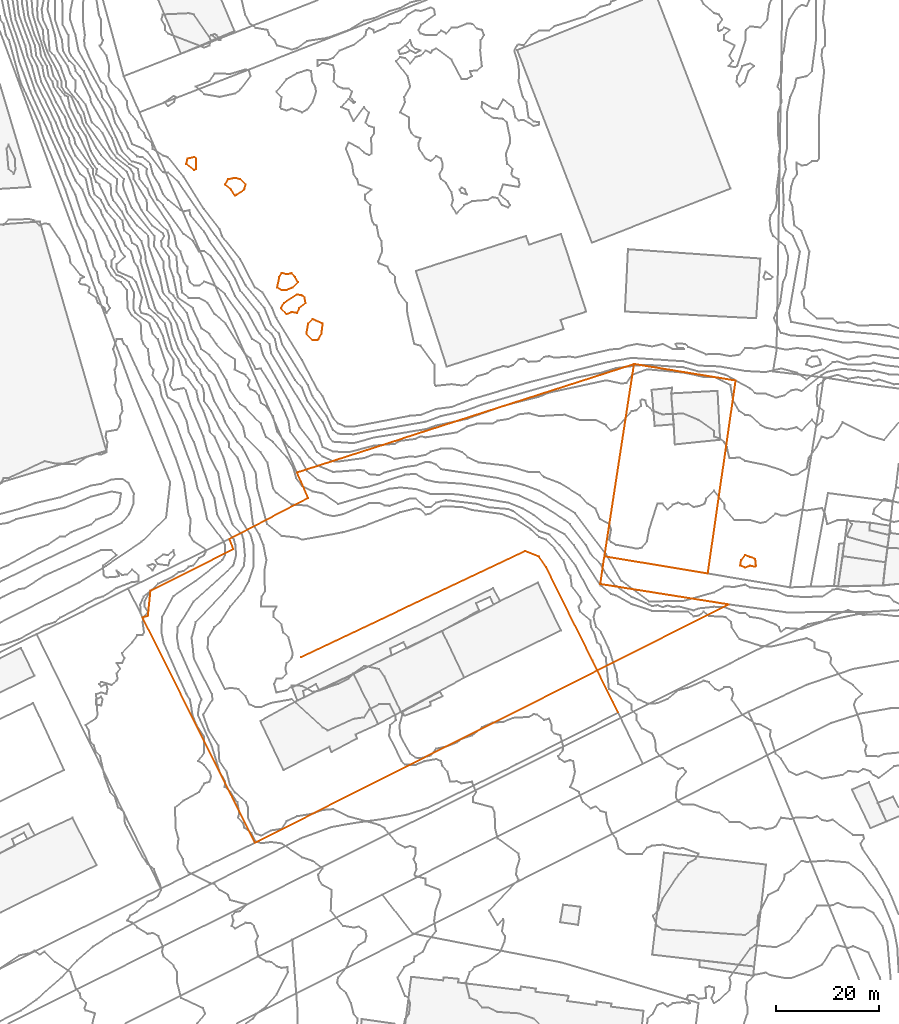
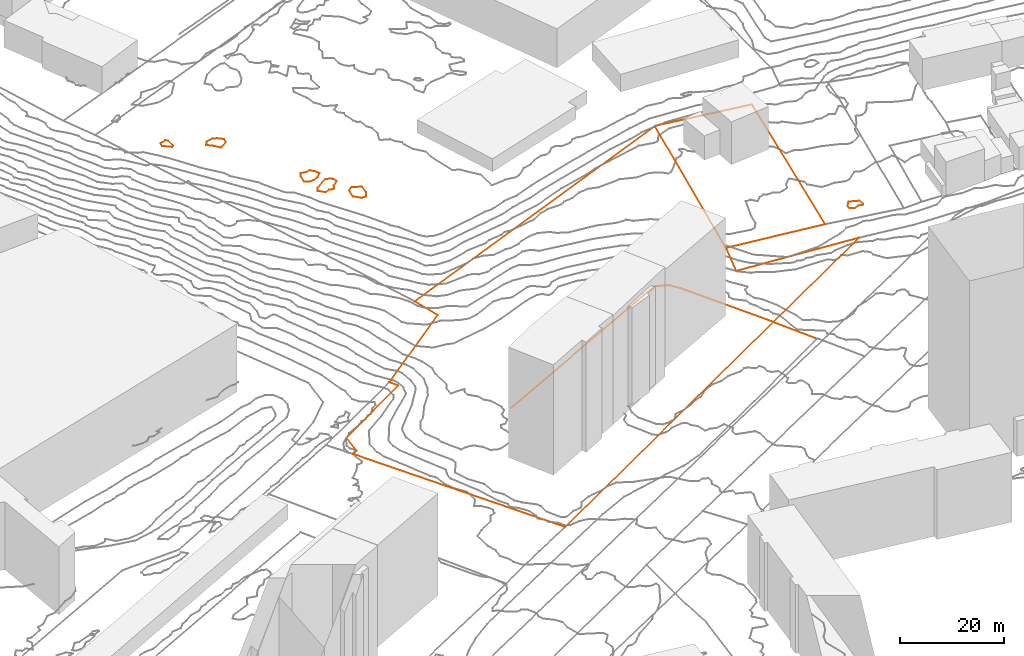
# Not in any storey, part 326 of 419: 9 proxies.
"""IFC2X3 model written with IfcOpenShell, lengths in metres."""

from ifc_helpers import new_model, entity, si_unit, frame, origin_with_axes, place, context, subcontext, project, element, save


model = new_model("IFC2X3")

# Units and contexts
model_context = context("Model", 3, precision=1e-05, world=origin_with_axes())
body_context = subcontext(model_context, "Body", "Model", "MODEL_VIEW")
ifc_project = project(units=[si_unit("AREAUNIT", "SQUARE_METRE"), si_unit("LENGTHUNIT", "METRE")], contexts=[model_context])

# Proxies
proxy_1_placement = place(None, frame((353.8920204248, 862.0976909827, 35.9), z_axis=(0.0, 0.0, 1.0), x_axis=(1.0, 0.0, 0.0)))
element("IfcBuildingElementProxy", 1, at=proxy_1_placement, Name="Route 320", ObjectType="NOTDEFINED", context=body_context, shape_type="GeometricCurveSet", body=[
    entity("IfcGeometricCurveSet", [entity("IfcPolyline", [entity("IfcCartesianPoint", [61.6, -10.7999999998, 1.1]), entity("IfcCartesianPoint", [56.6, -0.7000000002, 1.1]), entity("IfcCartesianPoint", [47.6, 17.5, 0.7]), entity("IfcCartesianPoint", [46.2, 19.5, 0.7]), entity("IfcCartesianPoint", [43.5, 20.5999999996, 0.7]), entity("IfcCartesianPoint", [0.0, 0.0, 0.0])])]),
])
proxy_2_placement = place(None, frame((323.1020204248, 869.8176909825, 31.0912315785), z_axis=(0.0, 0.0, 1.0), x_axis=(1.0, 0.0, 0.0)))
element("IfcBuildingElementProxy", 2, at=proxy_2_placement, Name="Cadastre 270", ObjectType="NOTDEFINED", context=body_context, shape_type="GeometricCurveSet", body=[
    entity("IfcGeometricCurveSet", [entity("IfcPolyline", [entity("IfcCartesianPoint", [16.9, 15.25, 1.6783683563]), entity("IfcCartesianPoint", [32.17, 23.1800000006, 7.2842086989]), entity("IfcCartesianPoint", [30.0, 28.1400000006, 8.24785621]), entity("IfcCartesianPoint", [95.45, 49.1900000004, 13.7446481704]), entity("IfcCartesianPoint", [89.6900000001, 11.8500000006, 9.788448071]), entity("IfcCartesianPoint", [88.9, 6.4699999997, 7.9318200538]), entity("IfcCartesianPoint", [113.8200000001, 2.5099999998, 9.388590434]), entity("IfcCartesianPoint", [21.84, -43.7599999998, 1.7514388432]), entity("IfcCartesianPoint", [0.0, 0.0, 0.0]), entity("IfcCartesianPoint", [1.04, 0.3100000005, 0.2382584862]), entity("IfcCartesianPoint", [1.54, 5.1699999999, 0.1018391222]), entity("IfcCartesianPoint", [17.63, 13.2199999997, 1.8561767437]), entity("IfcCartesianPoint", [16.9, 15.25, 1.6783683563])])]),
])
proxy_3_placement = place(None, frame((412.7920204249, 881.667690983, 40.8796796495), z_axis=(0.0, 0.0, 1.0), x_axis=(1.0, 0.0, 0.0)))
element("IfcBuildingElementProxy", 3, at=proxy_3_placement, Name="Cadastre 272", ObjectType="NOTDEFINED", context=body_context, shape_type="GeometricCurveSet", body=[
    entity("IfcGeometricCurveSet", [entity("IfcPolyline", [entity("IfcCartesianPoint", [20.08, -3.3400000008, 0.5441607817]), entity("IfcCartesianPoint", [0.0, 0.0, 0.0]), entity("IfcCartesianPoint", [5.7599999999, 37.3399999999, 3.9562000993]), entity("IfcCartesianPoint", [25.49, 34.1399999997, 4.0552858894]), entity("IfcCartesianPoint", [20.08, -3.3400000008, 0.5441607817])])]),
])
proxy_4_placement = place(None, frame((331.592014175, 957.8976909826, 47.0), z_axis=(0.0, 0.0, 1.0), x_axis=(1.0, 0.0, 0.0)))
element("IfcBuildingElementProxy", 4, at=proxy_4_placement, Name="Contour 47.0 m", ObjectType="NOTDEFINED", context=body_context, shape_type="GeometricCurveSet", body=[
    entity("IfcGeometricCurveSet", [entity("IfcPolyline", [entity("IfcCartesianPoint", [1.900011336, -1.0, 0.0]), entity("IfcCartesianPoint", [1.5000062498, -1.2400054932, 0.0]), entity("IfcCartesianPoint", [0.0, 0.0, 0.0]), entity("IfcCartesianPoint", [0.2142841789, 1.0, 0.0]), entity("IfcCartesianPoint", [1.5000062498, 1.333340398, 0.0]), entity("IfcCartesianPoint", [1.9615514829, 1.0, 0.0]), entity("IfcCartesianPoint", [1.900011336, -1.0, 0.0])])]),
])
proxy_5_placement = place(None, frame((339.0920167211, 953.8976909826, 47.0), z_axis=(0.0, 0.0, 1.0), x_axis=(1.0, 0.0, 0.0)))
element("IfcBuildingElementProxy", 5, at=proxy_5_placement, Name="Contour 47.0 m", ObjectType="NOTDEFINED", context=body_context, shape_type="GeometricCurveSet", body=[
    entity("IfcGeometricCurveSet", [entity("IfcPolyline", [entity("IfcCartesianPoint", [2.3077005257, -2.0, 0.0]), entity("IfcCartesianPoint", [2.0000037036, -2.2105284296, 0.0]), entity("IfcCartesianPoint", [1.2105321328, -1.0, 0.0]), entity("IfcCartesianPoint", [0.0, 0.0, 0.0]), entity("IfcCartesianPoint", [0.6363610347, 1.0, 0.0]), entity("IfcCartesianPoint", [2.0000037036, 1.2799987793, 0.0]), entity("IfcCartesianPoint", [2.9333472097, 1.0, 0.0]), entity("IfcCartesianPoint", [4.0000108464, 0.0, 0.0]), entity("IfcCartesianPoint", [3.7647069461, -1.0, 0.0]), entity("IfcCartesianPoint", [2.3077005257, -2.0, 0.0])])]),
])
proxy_6_placement = place(None, frame((349.24201661, 933.8976909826, 47.0), z_axis=(0.0, 0.0, 1.0), x_axis=(1.0, 0.0, 0.0)))
element("IfcBuildingElementProxy", 6, at=proxy_6_placement, Name="Contour 47.0 m", ObjectType="NOTDEFINED", context=body_context, shape_type="GeometricCurveSet", body=[
    entity("IfcGeometricCurveSet", [entity("IfcPolyline", [entity("IfcCartesianPoint", [2.9833388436, 0.0, 0.0]), entity("IfcCartesianPoint", [1.8500038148, -0.4857111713, 0.0]), entity("IfcCartesianPoint", [0.8500038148, -0.5483855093, 0.0]), entity("IfcCartesianPoint", [0.0, 0.0, 0.0]), entity("IfcCartesianPoint", [0.4152186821, 2.0, 0.0]), entity("IfcCartesianPoint", [0.8500038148, 2.8000030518, 0.0]), entity("IfcCartesianPoint", [1.8500038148, 2.5641065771, 0.0]), entity("IfcCartesianPoint", [2.8500038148, 2.7368442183, 0.0]), entity("IfcCartesianPoint", [3.4863611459, 2.0, 0.0]), entity("IfcCartesianPoint", [4.0423098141, 1.0, 0.0]), entity("IfcCartesianPoint", [2.9833388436, 0.0, 0.0])])]),
])
proxy_7_placement = place(None, frame((349.9867548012, 929.8976909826, 47.0), z_axis=(0.0, 0.0, 1.0), x_axis=(1.0, 0.0, 0.0)))
element("IfcBuildingElementProxy", 7, at=proxy_7_placement, Name="Contour 47.0 m", ObjectType="NOTDEFINED", context=body_context, shape_type="GeometricCurveSet", body=[
    entity("IfcGeometricCurveSet", [entity("IfcPolyline", [entity("IfcCartesianPoint", [3.1052706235, -1.0, 0.0]), entity("IfcCartesianPoint", [2.1052656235, -0.7647006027, 0.0]), entity("IfcCartesianPoint", [1.1052656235, -1.1875044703, 0.0]), entity("IfcCartesianPoint", [0.0, 0.0, 0.0]), entity("IfcCartesianPoint", [0.5740208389, 1.0, 0.0]), entity("IfcCartesianPoint", [3.1052656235, 2.6491212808, 0.0]), entity("IfcCartesianPoint", [4.1052656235, 2.4516144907, 0.0]), entity("IfcCartesianPoint", [4.5880206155, 2.0, 0.0]), entity("IfcCartesianPoint", [4.7719322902, 1.0, 0.0]), entity("IfcCartesianPoint", [3.5668029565, 0.0, 0.0]), entity("IfcCartesianPoint", [3.1052706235, -1.0, 0.0])])]),
])
proxy_8_placement = place(None, frame((354.9181030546, 924.8976909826, 47.0), z_axis=(0.0, 0.0, 1.0), x_axis=(1.0, 0.0, 0.0)))
element("IfcBuildingElementProxy", 8, at=proxy_8_placement, Name="Contour 47.0 m", ObjectType="NOTDEFINED", context=body_context, shape_type="GeometricCurveSet", body=[
    entity("IfcGeometricCurveSet", [entity("IfcPolyline", [entity("IfcCartesianPoint", [2.3318068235, -1.0, 0.0]), entity("IfcCartesianPoint", [2.1739173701, -1.249992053, 0.0]), entity("IfcCartesianPoint", [1.1739173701, -1.2352967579, 0.0]), entity("IfcCartesianPoint", [0.0, 0.0, 0.0]), entity("IfcCartesianPoint", [0.3405893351, 2.0, 0.0]), entity("IfcCartesianPoint", [1.1739173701, 2.8333280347, 0.0]), entity("IfcCartesianPoint", [3.1739232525, 2.0, 0.0]), entity("IfcCartesianPoint", [2.9239221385, 0.0, 0.0]), entity("IfcCartesianPoint", [2.3318068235, -1.0, 0.0])])]),
])
proxy_9_placement = place(None, frame((439.1753405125, 879.8976909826, 42.0), z_axis=(0.0, 0.0, 1.0), x_axis=(1.0, 0.0, 0.0)))
element("IfcBuildingElementProxy", 9, at=proxy_9_placement, Name="Contour 42.0 m", ObjectType="NOTDEFINED", context=body_context, shape_type="GeometricCurveSet", body=[
    entity("IfcGeometricCurveSet", [entity("IfcPolyline", [entity("IfcCartesianPoint", [3.059535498, 0.0, 0.0]), entity("IfcCartesianPoint", [2.9166799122, -0.2631557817, 0.0]), entity("IfcCartesianPoint", [1.9166799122, -0.0606071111, 0.0]), entity("IfcCartesianPoint", [0.9166799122, -0.3928610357, 0.0]), entity("IfcCartesianPoint", [0.0, 0.0, 0.0]), entity("IfcCartesianPoint", [0.1666719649, 1.0, 0.0]), entity("IfcCartesianPoint", [0.9166799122, 2.0000071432, 0.0]), entity("IfcCartesianPoint", [1.9166799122, 1.666666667, 0.0]), entity("IfcCartesianPoint", [2.9166799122, 1.2727146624, 0.0]), entity("IfcCartesianPoint", [3.059535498, 0.0, 0.0])])]),
])

save(model, "model.ifc")
